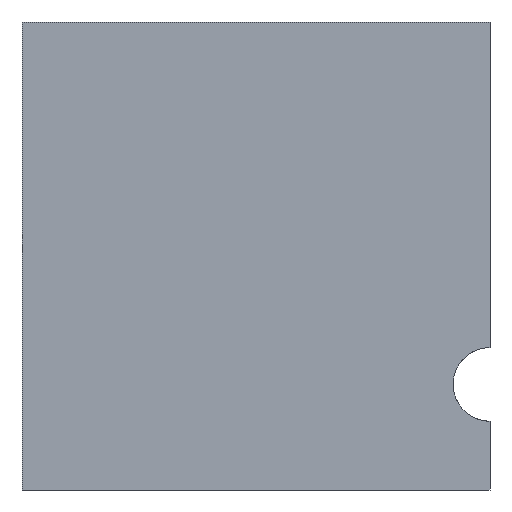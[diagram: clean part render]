
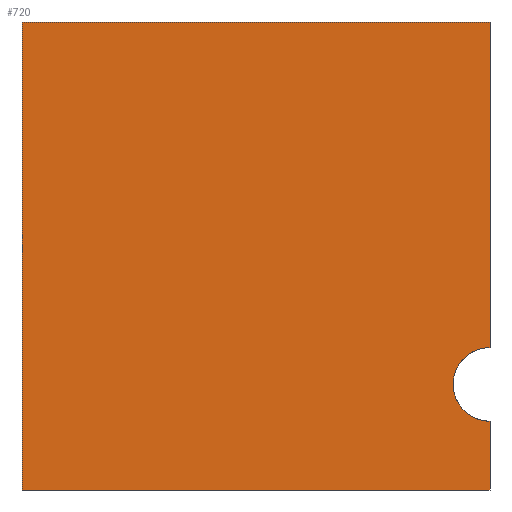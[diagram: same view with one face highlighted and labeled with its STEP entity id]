
A CAD part, left-side view. The second image highlights one B-rep face of the part: STEP entity #720.
In plain terms, the highlighted planar face has unit normal (-1, 0, 0).
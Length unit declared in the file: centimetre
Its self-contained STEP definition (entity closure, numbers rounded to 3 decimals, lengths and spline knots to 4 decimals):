
#24 = AXIS2_PLACEMENT_3D ( 'NONE', #617, #607, #1057 ) ;
#50 = EDGE_CURVE ( 'NONE', #1369, #620, #526, .T. ) ;
#56 = CARTESIAN_POINT ( 'NONE',  ( 0., 0., 1000. ) ) ;
#93 = EDGE_CURVE ( 'NONE', #1369, #1064, #774, .T. ) ;
#171 = DIRECTION ( 'NONE',  ( 0., 0., -1. ) ) ;
#184 = CARTESIAN_POINT ( 'NONE',  ( 0., 0., 1000. ) ) ;
#222 = CARTESIAN_POINT ( 'NONE',  ( 0., 1000., 0. ) ) ;
#228 = LINE ( 'NONE', #966, #506 ) ;
#254 = ORIENTED_EDGE ( 'NONE', *, *, #483, .F. ) ;
#273 = PLANE ( 'NONE',  #675 ) ;
#291 = CARTESIAN_POINT ( 'NONE',  ( 0., 1000., 1000. ) ) ;
#385 = ORIENTED_EDGE ( 'NONE', *, *, #542, .F. ) ;
#393 = CARTESIAN_POINT ( 'NONE',  ( 0., 0., 304.3969 ) ) ;
#400 = VERTEX_POINT ( 'NONE', #393 ) ;
#439 = VECTOR ( 'NONE', #656, 100. ) ;
#446 = EDGE_LOOP ( 'NONE', ( #1396, #385, #254, #1181, #521, #1038 ) ) ;
#482 = FACE_OUTER_BOUND ( 'NONE', #446, .T. ) ;
#483 = EDGE_CURVE ( 'NONE', #1064, #400, #1158, .T. ) ;
#506 = VECTOR ( 'NONE', #850, 100. ) ;
#521 = ORIENTED_EDGE ( 'NONE', *, *, #50, .T. ) ;
#526 = LINE ( 'NONE', #291, #1419 ) ;
#542 = EDGE_CURVE ( 'NONE', #400, #889, #626, .T. ) ;
#555 = CARTESIAN_POINT ( 'NONE',  ( 0., 1000., 1000. ) ) ;
#581 = CARTESIAN_POINT ( 'NONE',  ( 0., 1000., 1000. ) ) ;
#607 = DIRECTION ( 'NONE',  ( -1., 0., 0. ) ) ;
#617 = CARTESIAN_POINT ( 'NONE',  ( 0., 0., 225.5803 ) ) ;
#620 = VERTEX_POINT ( 'NONE', #896 ) ;
#626 = CIRCLE ( 'NONE', #24, 78.8166 ) ;
#656 = DIRECTION ( 'NONE',  ( 0., -1., 0. ) ) ;
#675 = AXIS2_PLACEMENT_3D ( 'NONE', #581, #1344, #1012 ) ;
#720 = ADVANCED_FACE ( 'NONE', ( #482 ), #273, .F. ) ;
#722 = DIRECTION ( 'NONE',  ( 0., 0., -1. ) ) ;
#769 = CARTESIAN_POINT ( 'NONE',  ( 0., 1000., 1000. ) ) ;
#774 = LINE ( 'NONE', #555, #1390 ) ;
#850 = DIRECTION ( 'NONE',  ( 0., 0., -1. ) ) ;
#889 = VERTEX_POINT ( 'NONE', #959 ) ;
#896 = CARTESIAN_POINT ( 'NONE',  ( 0., 1000., 0. ) ) ;
#959 = CARTESIAN_POINT ( 'NONE',  ( 0., 0., 146.7637 ) ) ;
#966 = CARTESIAN_POINT ( 'NONE',  ( 0., 0., 1000. ) ) ;
#1012 = DIRECTION ( 'NONE',  ( 0., 0., -1. ) ) ;
#1016 = VECTOR ( 'NONE', #171, 100. ) ;
#1038 = ORIENTED_EDGE ( 'NONE', *, *, #1219, .T. ) ;
#1057 = DIRECTION ( 'NONE',  ( 0., 0., 1. ) ) ;
#1064 = VERTEX_POINT ( 'NONE', #56 ) ;
#1158 = LINE ( 'NONE', #184, #1016 ) ;
#1181 = ORIENTED_EDGE ( 'NONE', *, *, #93, .F. ) ;
#1200 = LINE ( 'NONE', #222, #439 ) ;
#1202 = DIRECTION ( 'NONE',  ( 0., -1., 0. ) ) ;
#1204 = CARTESIAN_POINT ( 'NONE',  ( 0., 0., 0. ) ) ;
#1219 = EDGE_CURVE ( 'NONE', #620, #1267, #1200, .T. ) ;
#1267 = VERTEX_POINT ( 'NONE', #1204 ) ;
#1292 = EDGE_CURVE ( 'NONE', #889, #1267, #228, .T. ) ;
#1344 = DIRECTION ( 'NONE',  ( 1., 0., 0. ) ) ;
#1369 = VERTEX_POINT ( 'NONE', #769 ) ;
#1390 = VECTOR ( 'NONE', #1202, 100. ) ;
#1396 = ORIENTED_EDGE ( 'NONE', *, *, #1292, .F. ) ;
#1419 = VECTOR ( 'NONE', #722, 100. ) ;
